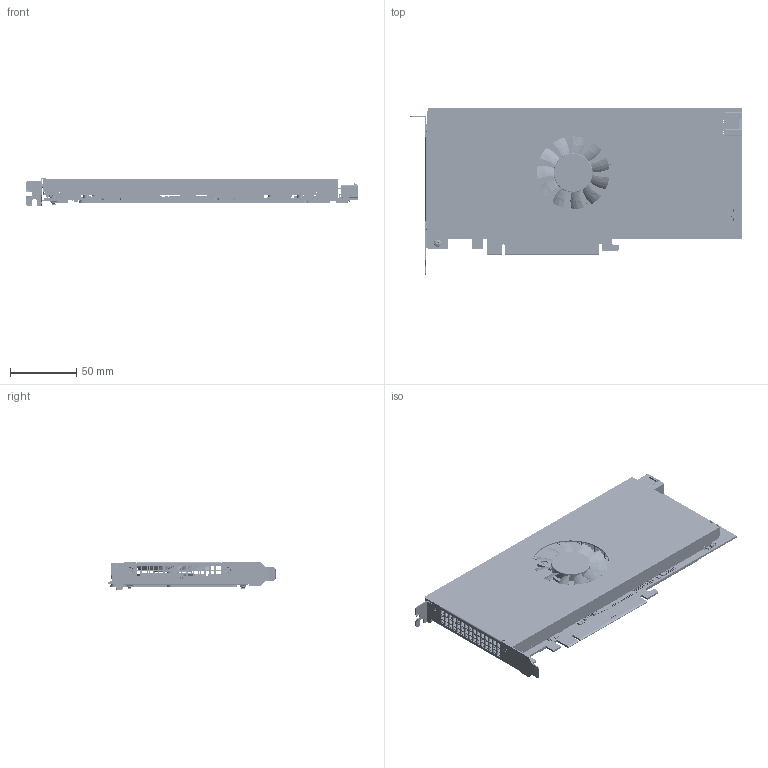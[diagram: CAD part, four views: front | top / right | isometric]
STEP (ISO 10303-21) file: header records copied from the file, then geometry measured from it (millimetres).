
FILE_DESCRIPTION (( 'STEP AP214' ), '1' );
FILE_NAME ('0-assm_AXE-D02_wo_heatpipe_20250812.STEP', '2025-08-12T09:37:02', ( '' ), ( '' ), 'SwSTEP 2.0', 'SolidWorks 2020', '' );
FILE_SCHEMA (( 'AUTOMOTIVE_DESIGN' ));
Length unit declared in the file: millimetre
Products named in the file (40): POWER-PAD_1_2; 8010______1_1; AXE-D01_HEATSINK_remove-pipe_2025-0418; GREASE_ASM_2_ASM_1_ASM_ASM; FAN-SCREW_ASM_2_ASM_1_ASM_ASM; FIN_ASM_4_ASM_4_ASM_ASM; 38-004502-2300 P head M3x5L Nylok; AIPU-GREASE_1_1; CHOKE-PAD; BACK-PLATE_SCREW_1; axe-d02_brd20250627_3d_asm; 0-Mylar_pc1870a+3m-9448; 0-assm_AXE-D02_wo_heatpipe_20250812; AXE-D01_HEATSINK_ASM_8_ASM_6_AS_ASM; 0-back plate; 8010_ZHIJIA_STP_1_1; FAN-COVER_SCREW_2; FAN-COVER_2_4; VRAM-PAD_1_2; FAN-COVER_ASM_3_ASM_ASM; FIN-5; FAN-SCREW_1_1; 3810034012S000_F head M2.5x4L; FIN-4; 8010_______11_____20220113_ASM__ASM; MOS-PAD; BASE_4_5; PAD_ASM_5_ASM_5_ASM_ASM; 8010_11_20220113_ASM_ASM_ASM_1__ASM; SWITCH-PAD_1_2; POWER-PLATE_2_1; 6010_ASM_ASM_1_ASM_1_ASM_ASM; FAN-COVER_STANDOFF_4; 6010_ASM_1_ASM_1_ASM_ASM; FIN-3; FIN-1; STANDOFF_ASM_2_ASM_1_ASM_ASM; STANDOFF_1_2; FIN-2; 3310000005N100
Assembly tree (122 placements, depth 8):
  0-assm_AXE-D02_wo_heatpipe_20250812
    3310000005N100
    38-004502-2300 P head M3x5L Nylok  x2
    0-Mylar_pc1870a+3m-9448
    0-back plate
    3810034012S000_F head M2.5x4L  x2
    axe-d02_brd20250627_3d_asm
    AXE-D01_HEATSINK_remove-pipe_2025-0418
      BACK-PLATE_SCREW_1  x5
      AXE-D01_HEATSINK_ASM_8_ASM_6_AS_ASM
        FAN-SCREW_ASM_2_ASM_1_ASM_ASM
          FAN-SCREW_1_1  x3
        STANDOFF_ASM_2_ASM_1_ASM_ASM
          STANDOFF_1_2  x5
        FAN-COVER_SCREW_2  x4
        GREASE_ASM_2_ASM_1_ASM_ASM
          AIPU-GREASE_1_1  x4
        BASE_4_5
        6010_ASM_1_ASM_1_ASM_ASM
          6010_ASM_ASM_1_ASM_1_ASM_ASM
            8010_11_20220113_ASM_ASM_ASM_1__ASM
              8010_______11_____20220113_ASM__ASM
                8010_ZHIJIA_STP_1_1
                8010______1_1
        POWER-PLATE_2_1  x2
        FIN_ASM_4_ASM_4_ASM_ASM
          FIN-3  x8
          FIN-4  x8
          FIN-5  x10
          FIN-1  x8
          FIN-2  x18
        PAD_ASM_5_ASM_5_ASM_ASM
          MOS-PAD  x4
          VRAM-PAD_1_2  x8
          POWER-PAD_1_2  x2
          CHOKE-PAD  x2
          SWITCH-PAD_1_2
        FAN-COVER_ASM_3_ASM_ASM
          FAN-COVER_STANDOFF_4  x6
          FAN-COVER_2_4
Bounding box: 251.19 x 126.4 x 21.59 mm (x, y, z)
Volume: 152332.9 mm3; surface area: 340008.1 mm2
Topology: 2779 solids, 2779 shells, 21232 faces, 46077 edges, 30767 vertices
Faces by surface type: plane 19947, cylinder 1041, cone 158, bspline 74, torus 12
Entity records: 774715 total; most frequent: CARTESIAN_POINT 105817, ORIENTED_EDGE 84724, DIRECTION 82697, EDGE_CURVE 42362, LINE 39719, VECTOR 39719, VERTEX_POINT 28334, UNCERTAINTY_MEASURE_WITH_UNIT 21896
